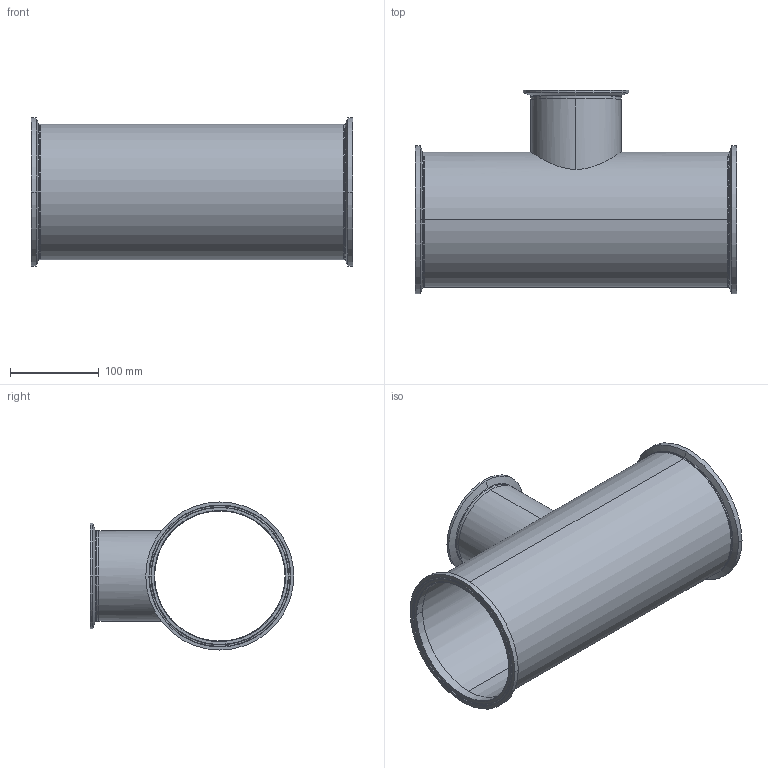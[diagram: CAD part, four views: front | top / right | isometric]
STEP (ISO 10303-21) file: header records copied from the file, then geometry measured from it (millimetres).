
FILE_DESCRIPTION (( 'STEP AP214' ), '1' );
FILE_NAME ('TEG7R6L6.0x4.0-...STEP', '2016-05-24T07:33:56', ( 'eran' ), ( '' ), 'SwSTEP 2.0', 'SolidWorks 2016', '' );
FILE_SCHEMA (( 'AUTOMOTIVE_DESIGN' ));
Length unit declared in the file: millimetre
Products named in the file (1): TEG7R6L6.0x4.0-..
Bounding box: 362 x 229.54 x 166.88 mm (x, y, z)
Volume: 562841.2 mm3; surface area: 402415.5 mm2
Topology: 4 solids, 4 shells, 86 faces, 214 edges, 140 vertices
Faces by surface type: bspline 30, cylinder 26, cone 18, plane 12
Entity records: 5797 total; most frequent: CARTESIAN_POINT 3683, DIRECTION 454, ORIENTED_EDGE 428, EDGE_CURVE 214, AXIS2_PLACEMENT_3D 205, CIRCLE 148, VERTEX_POINT 140, EDGE_LOOP 100
